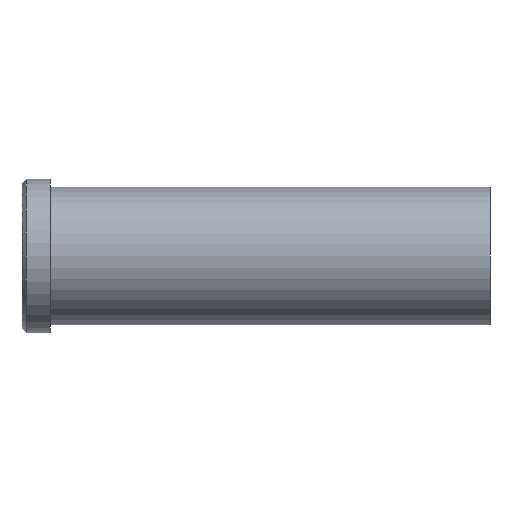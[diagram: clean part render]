
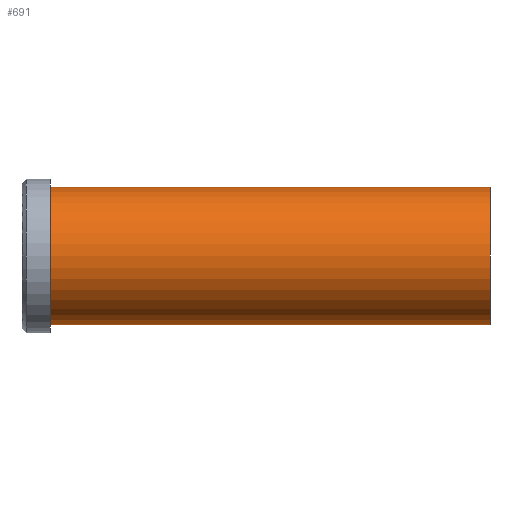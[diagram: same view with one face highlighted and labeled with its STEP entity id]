
A CAD part, front view. The second image highlights one B-rep face of the part: STEP entity #691.
In plain terms, the highlighted cylindrical face has radius 17 mm (diameter 34 mm), a partial arc.
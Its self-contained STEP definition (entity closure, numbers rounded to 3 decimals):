
#501=CARTESIAN_POINT('Vertex',(0.,0.,-17.)) ;
#506=CARTESIAN_POINT('Axis2P3D Location',(0.,0.,0.)) ;
#510=CARTESIAN_POINT('Vertex',(0.,-17.,0.)) ;
#513=CARTESIAN_POINT('Axis2P3D Location',(0.,0.,0.)) ;
#517=CARTESIAN_POINT('Vertex',(0.,0.,17.)) ;
#631=CARTESIAN_POINT('Line Origine',(109.,0.,17.)) ;
#635=CARTESIAN_POINT('Vertex',(109.,0.,17.)) ;
#649=CARTESIAN_POINT('Vertex',(109.,0.,-17.)) ;
#652=CARTESIAN_POINT('Line Origine',(109.,0.,-17.)) ;
#666=CARTESIAN_POINT('Axis2P3D Location',(109.,0.,0.)) ;
#671=CARTESIAN_POINT('Axis2P3D Location',(109.,0.,0.)) ;
#675=CARTESIAN_POINT('Vertex',(109.,-17.,0.)) ;
#678=CARTESIAN_POINT('Axis2P3D Location',(109.,0.,0.)) ;
#507=DIRECTION('Axis2P3D Direction',(1.,0.,-0.)) ;
#514=DIRECTION('Axis2P3D Direction',(1.,0.,-0.)) ;
#632=DIRECTION('Vector Direction',(-1.,0.,0.)) ;
#653=DIRECTION('Vector Direction',(-1.,0.,0.)) ;
#667=DIRECTION('Axis2P3D Direction',(-1.,-0.,-0.)) ;
#668=DIRECTION('Axis2P3D XDirection',(0.,0.,-1.)) ;
#672=DIRECTION('Axis2P3D Direction',(-1.,-0.,-0.)) ;
#679=DIRECTION('Axis2P3D Direction',(-1.,-0.,-0.)) ;
#508=AXIS2_PLACEMENT_3D('Circle Axis2P3D',#506,#507,$) ;
#515=AXIS2_PLACEMENT_3D('Circle Axis2P3D',#513,#514,$) ;
#669=AXIS2_PLACEMENT_3D('Cylinder Axis2P3D',#666,#667,#668) ;
#673=AXIS2_PLACEMENT_3D('Circle Axis2P3D',#671,#672,$) ;
#680=AXIS2_PLACEMENT_3D('Circle Axis2P3D',#678,#679,$) ;
#684=ORIENTED_EDGE('',*,*,#656,.T.) ;
#685=ORIENTED_EDGE('',*,*,#677,.F.) ;
#686=ORIENTED_EDGE('',*,*,#682,.F.) ;
#687=ORIENTED_EDGE('',*,*,#637,.T.) ;
#688=ORIENTED_EDGE('',*,*,#519,.T.) ;
#689=ORIENTED_EDGE('',*,*,#512,.T.) ;
#633=VECTOR('Line Direction',#632,1.) ;
#654=VECTOR('Line Direction',#653,1.) ;
#691=ADVANCED_FACE('353-25X116',(#690),#670,.T.) ;
#509=CIRCLE('generated circle',#508,17.) ;
#516=CIRCLE('generated circle',#515,17.) ;
#674=CIRCLE('generated circle',#673,17.) ;
#681=CIRCLE('generated circle',#680,17.) ;
#670=CYLINDRICAL_SURFACE('generated cylinder',#669,17.) ;
#512=EDGE_CURVE('',#511,#502,#509,.T.) ;
#519=EDGE_CURVE('',#518,#511,#516,.T.) ;
#637=EDGE_CURVE('',#636,#518,#634,.T.) ;
#656=EDGE_CURVE('',#502,#650,#655,.F.) ;
#677=EDGE_CURVE('',#676,#650,#674,.F.) ;
#682=EDGE_CURVE('',#636,#676,#681,.F.) ;
#683=EDGE_LOOP('',(#684,#685,#686,#687,#688,#689)) ;
#690=FACE_OUTER_BOUND('',#683,.T.) ;
#634=LINE('Line',#631,#633) ;
#655=LINE('Line',#652,#654) ;
#502=VERTEX_POINT('',#501) ;
#511=VERTEX_POINT('',#510) ;
#518=VERTEX_POINT('',#517) ;
#636=VERTEX_POINT('',#635) ;
#650=VERTEX_POINT('',#649) ;
#676=VERTEX_POINT('',#675) ;
